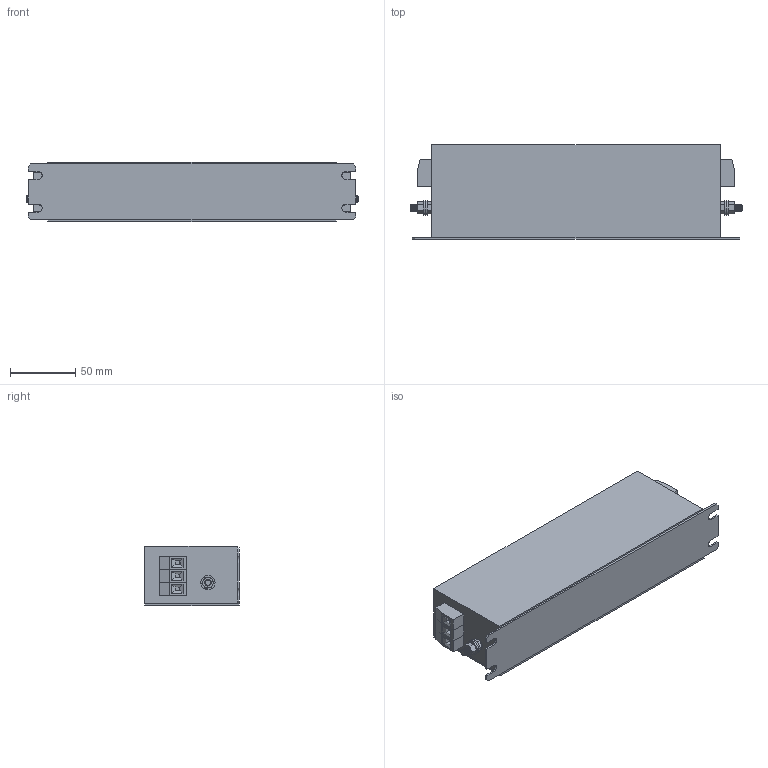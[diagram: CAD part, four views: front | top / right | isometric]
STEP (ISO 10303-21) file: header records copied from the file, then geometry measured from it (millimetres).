
FILE_DESCRIPTION (( 'STEP AP203' ), '1' );
FILE_NAME ('NF-KC-DAR-10-3.STEP', '2023-12-08T13:33:19', ( '' ), ( '' ), 'SwSTEP 2.0', 'SolidWorks 2017', '' );
FILE_SCHEMA (( 'CONFIG_CONTROL_DESIGN' ));
Length unit declared in the file: millimetre
Products named in the file (8): VDFK4x3; NF-KC-DAR-10-3; hex screw_am_B18.6.7M - M5 x 0.8 x 13 Indented HHMS --13S; VDFK-4; M5x13 Earth post; hex nut style 1_am_B18.2.4.1M - Hex nut, Style 1,  M5 x 0.8 --D-N; flat washer narrow_am_B18.22M - Plain washer, 5 mm, narrow
Assembly tree (12 placements, depth 3):
  NF-KC-DAR-10-3
    NF-KC-DAR-10-3
    M5x13 Earth post  x2
      hex screw_am_B18.6.7M - M5 x 0.8 x 13 Indented HHMS --13S
      flat washer narrow_am_B18.22M - Plain washer, 5 mm, narrow
      hex nut style 1_am_B18.2.4.1M - Hex nut, Style 1,  M5 x 0.8 --D-N
    VDFK4x3  x2
      VDFK-4
Bounding box: 253.6 x 72.3 x 45.3 mm (x, y, z)
Volume: 698739.7 mm3; surface area: 142223.8 mm2
Topology: 17 solids, 17 shells, 584 faces, 1430 edges, 908 vertices
Faces by surface type: plane 276, cone 176, cylinder 132
Entity records: 8133 total; most frequent: CARTESIAN_POINT 1363, DIRECTION 1305, ORIENTED_EDGE 1170, EDGE_CURVE 585, AXIS2_PLACEMENT_3D 504, VERTEX_POINT 370, LINE 297, VECTOR 297
